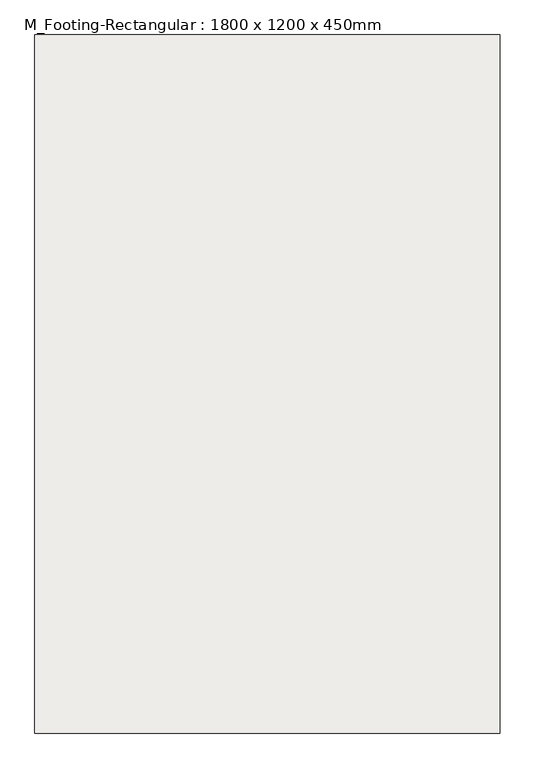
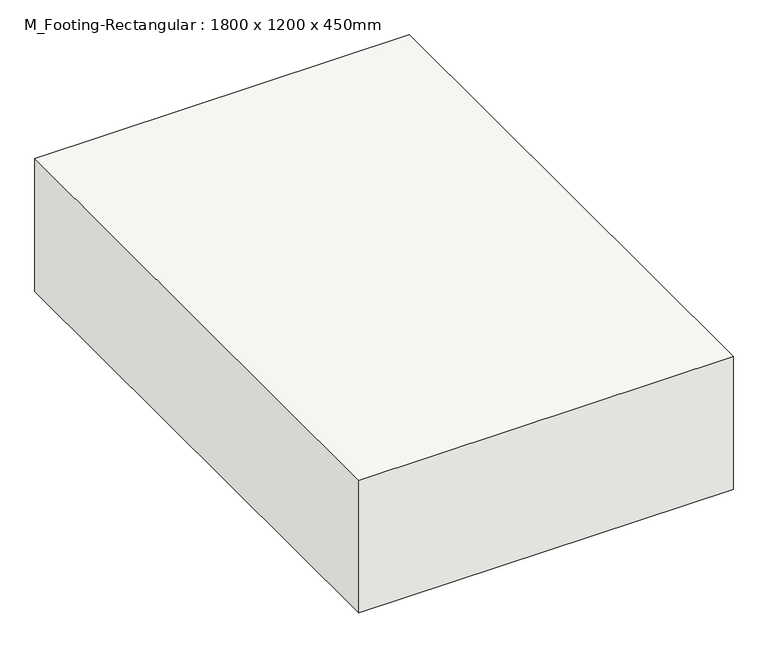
"""IFC4 building model written with IfcOpenShell, lengths in millimetres: slab geometry, M_Footing-Rectangular : 1800 x 1200 x 450mm."""

from ifc_helpers import new_model, si_unit, frame, origin, place, context, project, spatial, polyline, outline, extrude, source, transform, mapped, element, save


def m_footing_rectangular_1800_x_1200_x_450mm_a17f5610(model_context):
    return source(origin(), model_context, "Body", "SweptSolid", [
        extrude(outline(polyline([(600.0, -900.0), (-600.0, -900.0), (-600.0, 900.0), (600.0, 900.0), (600.0, -900.0)])), frame((0.0, 0.0, -450.0), z_axis=(0.0, 0.0, 1.0), x_axis=(1.0, 0.0, 0.0)), (0.0, 0.0, 1.0), 450.0),
    ])


if __name__ == "__main__":
    model = new_model("IFC4")
    model_context = context("Model", 3, world=origin())
    ifc_project = project(units=[si_unit("LENGTHUNIT", "METRE", prefix="MILLI")], contexts=[model_context])
    site = spatial("IfcSite", under=ifc_project)
    building = spatial("IfcBuilding", under=site)
    placement = place(None, origin())
    m_footing_rectangular_1800_x_1200_x_450mm_shape = m_footing_rectangular_1800_x_1200_x_450mm_a17f5610(model_context)
    element("IfcSlab", 1, ObjectType="M_Footing-Rectangular : 1800 x 1200 x 450mm", at=placement, inside=building, context=model_context, shape_type="MappedRepresentation", body=[
        mapped(m_footing_rectangular_1800_x_1200_x_450mm_shape, transform((0.0, 0.0, 0.0), x_axis=(1.0, 0.0, 0.0), y_axis=(0.0, 1.0, 0.0), z_axis=(0.0, 0.0, 1.0))),
    ])
    save(model, "model.ifc")
